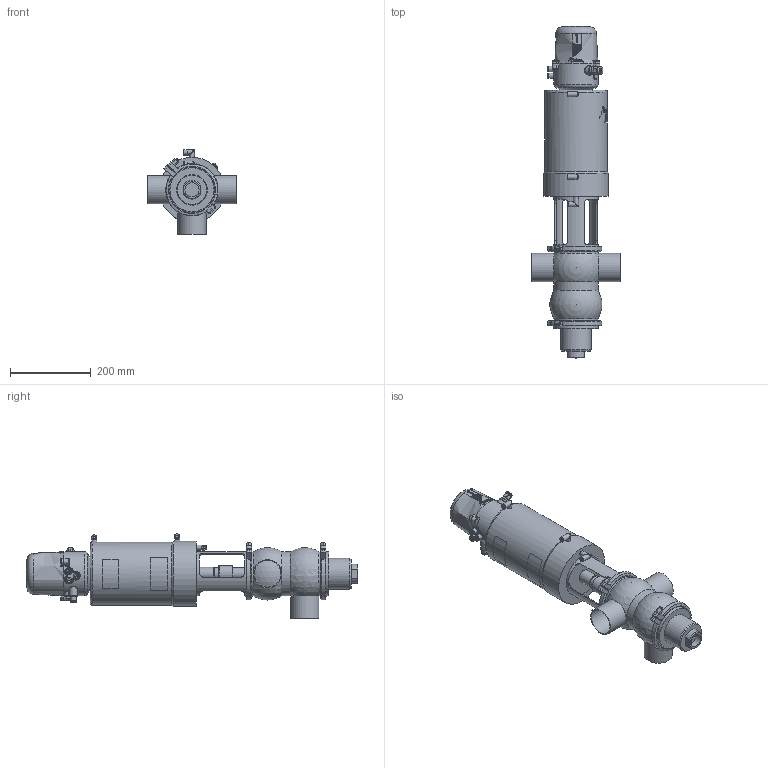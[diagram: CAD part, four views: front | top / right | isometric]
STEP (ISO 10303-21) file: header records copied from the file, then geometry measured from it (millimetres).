
FILE_DESCRIPTION (( 'STEP AP214' ), '1' );
FILE_NAME ('INNOVA P AB-90 W DIN 065 & C-TOP S_10.250.16.0011.STEP', '2024-08-09T12:26:34', ( '' ), ( '' ), 'SwSTEP 2.0', 'SolidWorks 2023', '' );
FILE_SCHEMA (( 'AUTOMOTIVE_DESIGN' ));
Length unit declared in the file: millimetre
Products named in the file (7): 10.250.15.0003_DN 065; 10.251.15.0003_DIN 065; 10.250.15.0001_DIN 065; INNOVA P AB-90 W DIN 065 & C-TOP S_10.250.16.0011; 10.250.15.0002_Type P T2; 10.426.15.0001_C-TOP S - 3 EV; 10.240.15.0001_DN 065
Assembly tree (7 placements, depth 2):
  INNOVA P AB-90 W DIN 065 & C-TOP S_10.250.16.0011
    10.250.15.0001_DIN 065
    10.250.15.0002_Type P T2
    10.426.15.0001_C-TOP S - 3 EV
    10.251.15.0003_DIN 065
    10.240.15.0001_DN 065  x2
    10.250.15.0003_DN 065
Bounding box: 220 x 822 x 209 mm (x, y, z)
Volume: 9485857.1 mm3; surface area: 596828.4 mm2
Topology: 7 solids, 7 shells, 1209 faces, 2903 edges, 1932 vertices
Faces by surface type: plane 416, cylinder 385, cone 204, bspline 162, torus 33, sphere 9
Full cylindrical faces by diameter (mm): 0.371 x17, 0.512 x16, 0.658 x16, 0.795 x16, 0.94 x15, 1.098 x15, 1.241 x13, 1.382 x13, 1.523 x11, 1.669 x10, 2.201 x1, 4.2 x2, 5 x1, 5.5 x2, 6 x4, 6.15 x3, 8 x5, 10 x1, 10.5 x3, 11 x4, 12.5 x9, 13 x6, 13.5 x2, 17 x3, 20 x2, 22 x2, 30.5 x2, 32 x1, 35 x1, 41 x1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
Entity records: 60158 total; most frequent: CARTESIAN_POINT 28673, ORIENTED_EDGE 4610, DIRECTION 3773, EDGE_CURVE 2305, VERTEX_POINT 1647, EDGE_LOOP 1638, AXIS2_PLACEMENT_3D 1556, FACE_OUTER_BOUND 1380
